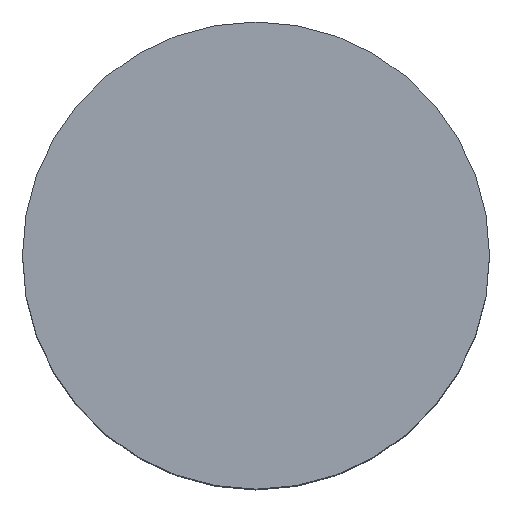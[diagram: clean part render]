
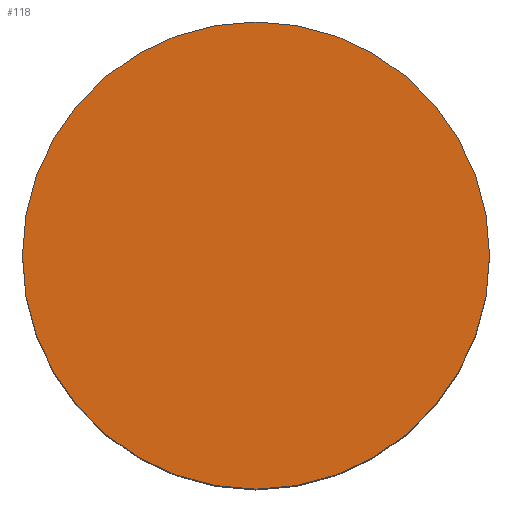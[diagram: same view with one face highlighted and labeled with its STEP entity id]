
A CAD part, top view. The second image highlights one B-rep face of the part: STEP entity #118.
In plain terms, the highlighted planar face has unit normal (0, 0, 1).
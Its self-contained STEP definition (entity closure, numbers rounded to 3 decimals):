
#118=ADVANCED_FACE('',(#128),#120,.T.);
#120=PLANE('',#215);
#128=FACE_OUTER_BOUND('',#136,.T.);
#136=EDGE_LOOP('',(#163,#164));
#163=ORIENTED_EDGE('',*,*,#186,.T.);
#164=ORIENTED_EDGE('',*,*,#184,.T.);
#171=VERTEX_POINT('',#281);
#172=VERTEX_POINT('',#283);
#184=EDGE_CURVE('',#172,#171,#195,.T.);
#186=EDGE_CURVE('',#171,#172,#196,.T.);
#195=CIRCLE('',#211,30.);
#196=CIRCLE('',#213,30.);
#211=AXIS2_PLACEMENT_3D('',#282,#247,#248);
#213=AXIS2_PLACEMENT_3D('',#286,#252,#253);
#215=AXIS2_PLACEMENT_3D('',#288,#256,#257);
#247=DIRECTION('',(0.,0.,1.));
#248=DIRECTION('',(0.,-1.,0.));
#252=DIRECTION('',(0.,0.,1.));
#253=DIRECTION('',(0.,1.,0.));
#256=DIRECTION('',(0.,0.,1.));
#257=DIRECTION('',(0.,1.,0.));
#281=CARTESIAN_POINT('',(-30.,0.,62.));
#282=CARTESIAN_POINT('',(0.,0.,62.));
#283=CARTESIAN_POINT('',(30.,0.,62.));
#286=CARTESIAN_POINT('',(0.,0.,62.));
#288=CARTESIAN_POINT('',(0.,0.,62.));
